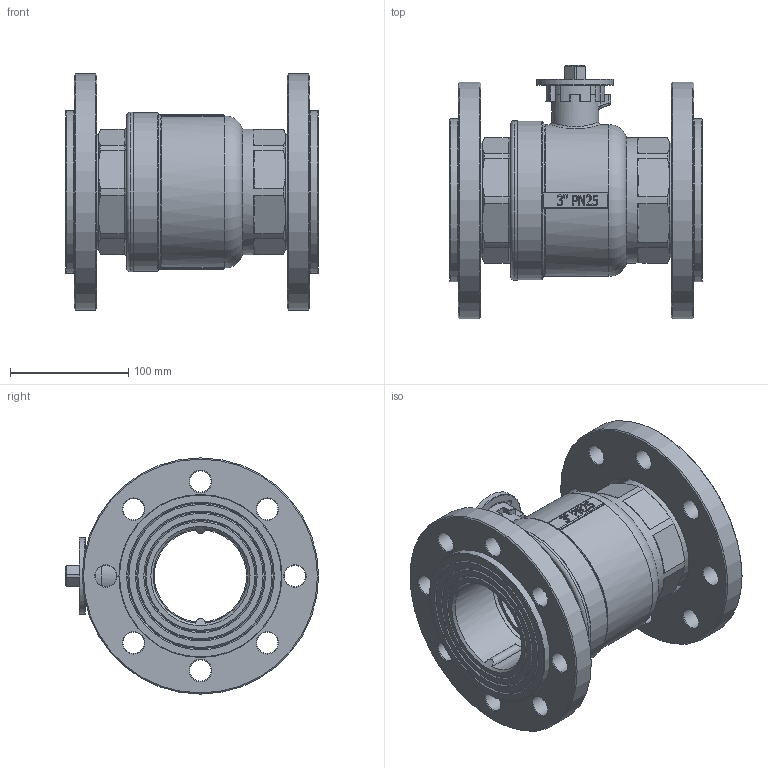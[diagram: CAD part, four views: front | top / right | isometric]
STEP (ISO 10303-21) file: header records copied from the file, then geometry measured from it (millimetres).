
FILE_DESCRIPTION(/* description */ ('Corpo femmina 3" motorizzato'),/* implementation_level */ '2;1');
FILE_NAME(/* name */ '\\dcidrosfer01\user$\ut4\Desktop\TICOM 14-11-2014\95 PM ISO E DN 80.stp',/* time_stamp */ '2014-11-14T11:46:16+01:00',/* author */ ('ut4'),/* organization */ (''),/* preprocessor_version */ 'ST-DEVELOPER v15.6',/* originating_system */ 'Autodesk Inventor 2015',/* authorisation */ '');
FILE_SCHEMA (('AUTOMOTIVE_DESIGN { 1 0 10303 214 3 1 1 }'));
Length unit declared in the file: millimetre
Products named in the file (17): Corpo femmina 003 mot.; Manicotto femmina 003 mot.; sfera 003; Sede 003; O-ring 17.86 x 2.62; Dischetto portamotore ISO 40; O-ring 88.49 x 3.53; Perno mot. 23 q14; Anello antigrip. perno mot. Ø23; Boccola antigrip. perno mot. Ø23; Ghiera ferma asta mot. 34-25; Dado bloccaggio piastra 34x6; Sede 003 mot.; O-ring 85.32 x 3.53; Bocchettone flangia DN80; Flangia PN16 DN80; Valvola a sfera mot. 003 ART.95
Assembly tree (21 placements, depth 2):
  Valvola a sfera mot. 003 ART.95
    Corpo femmina 003 mot.
    Manicotto femmina 003 mot.
    sfera 003
    Sede 003
    O-ring 17.86 x 2.62  x2
    Dischetto portamotore ISO 40
    O-ring 88.49 x 3.53  x2
    Perno mot. 23 q14
    Anello antigrip. perno mot. Ø23
    Boccola antigrip. perno mot. Ø23
    Ghiera ferma asta mot. 34-25
    Dado bloccaggio piastra 34x6
    Sede 003 mot.
    O-ring 85.32 x 3.53  x2
    Bocchettone flangia DN80  x2
    Flangia PN16 DN80  x2
Bounding box: 213.4 x 214.3 x 200 mm (x, y, z)
Volume: 1972809.7 mm3; surface area: 503552.8 mm2
Topology: 21 solids, 21 shells, 723 faces, 1741 edges, 1082 vertices
Faces by surface type: plane 231, cylinder 177, cone 119, bspline 116, torus 71, sphere 9
Full cylindrical faces by diameter (mm): 6.5 x4, 18 x18, 18.3 x1, 19.3 x2, 20 x1, 20.2 x1, 21 x2, 21.1 x1, 22.9 x3, 23 x3, 23.5 x1, 25 x2, 26 x1, 26.2 x1, 32 x1, 32.5 x1, 34 x2, 35 x1, 40 x1, 65 x1, 78 x3, 79 x2, 80 x2, 84.93 x2, 87.88 x2, 88 x1, 88.4 x1, 93.5 x2, 96 x3, 97 x2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
Entity records: 21100 total; most frequent: CARTESIAN_POINT 6765, ORIENTED_EDGE 2816, DIRECTION 2703, EDGE_CURVE 1408, AXIS2_PLACEMENT_3D 1087, VERTEX_POINT 962, EDGE_LOOP 896, FACE_OUTER_BOUND 659
